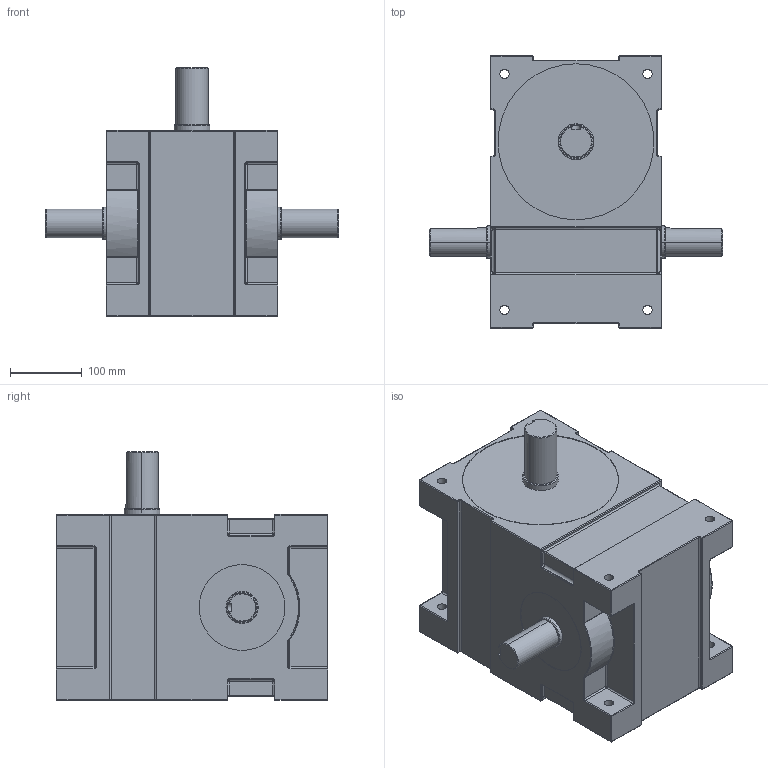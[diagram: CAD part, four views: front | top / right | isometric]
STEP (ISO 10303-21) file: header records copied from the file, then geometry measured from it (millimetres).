
FILE_DESCRIPTION((''),'2;1');
FILE_NAME('140DS','2015-01-16T',('松仔'),(''),'PRO/ENGINEER BY PARAMETRIC TECHNOLOGY CORPORATION, 2013430','PRO/ENGINEER BY PARAMETRIC TECHNOLOGY CORPORATION, 2013430','');
FILE_SCHEMA(('CONFIG_CONTROL_DESIGN'));
Length unit declared in the file: millimetre
Products named in the file (1): 140DS
Bounding box: 410 x 380 x 348 mm (x, y, z)
Volume: 21560958 mm3; surface area: 580623.8 mm2
Topology: 1 solids, 1 shells, 393 faces, 864 edges, 482 vertices
Faces by surface type: cylinder 200, plane 74, torus 54, sphere 42, bspline 20, cone 3
Entity records: 13051 total; most frequent: CARTESIAN_POINT 4331, DIRECTION 1962, ORIENTED_EDGE 1728, EDGE_CURVE 864, AXIS2_PLACEMENT_3D 790, VERTEX_POINT 482, EDGE_LOOP 418, CIRCLE 417
